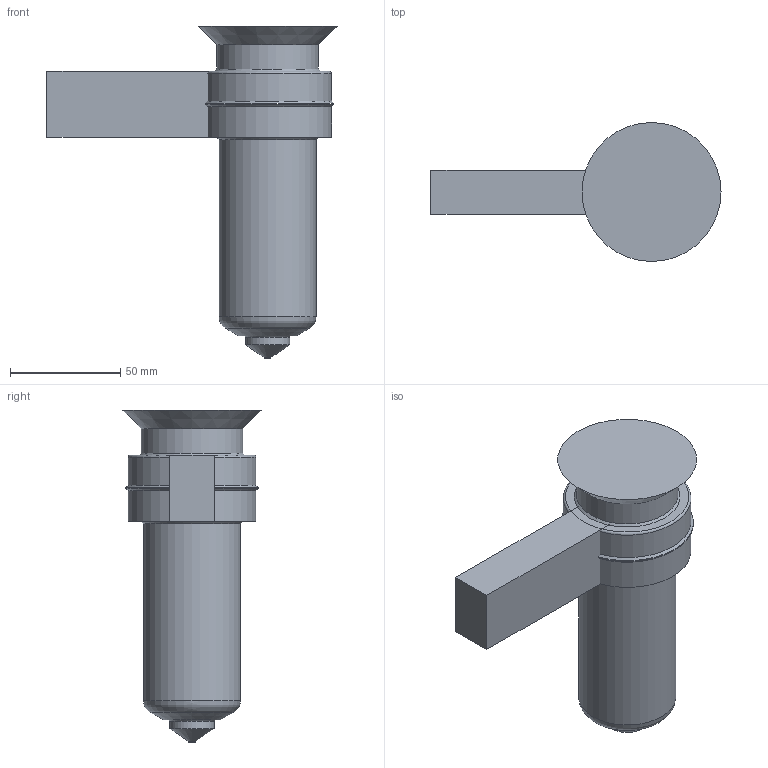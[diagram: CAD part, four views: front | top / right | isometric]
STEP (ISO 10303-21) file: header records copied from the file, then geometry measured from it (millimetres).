
FILE_DESCRIPTION(('STEP AP214'),'1');
FILE_NAME('SEDE FLS10-A.stp','2018-06-12T09:12:12',(' '),(' '),'Spatial InterOp 3D',' ',' ');
FILE_SCHEMA(('AUTOMOTIVE_DESIGN { 1 0 10303 214 1 1 1 1 }'));
Length unit declared in the file: millimetre
Products named in the file (1): 1
Bounding box: 131.5 x 63 x 150.5 mm (x, y, z)
Volume: 313937.7 mm3; surface area: 44758 mm2
Topology: 3 solids, 3 shells, 29 faces, 50 edges, 30 vertices
Faces by surface type: plane 13, cone 8, cylinder 6, torus 2
Full cylindrical faces by diameter (mm): 3 x1, 20 x1, 44 x1, 46 x1, 58 x2
Entity records: 948 total; most frequent: DIRECTION 118, CARTESIAN_POINT 94, ORIENTED_EDGE 66, AXIS2_PLACEMENT_3D 53, STYLED_ITEM 48, PRESENTATION_STYLE_ASSIGNMENT 48, EDGE_LOOP 48, COLOUR_RGB 48
